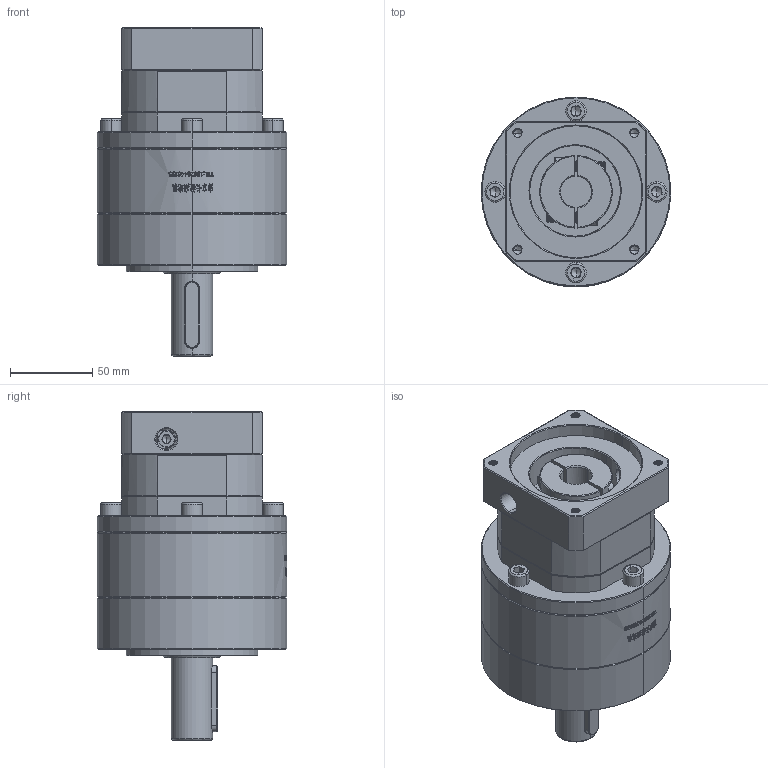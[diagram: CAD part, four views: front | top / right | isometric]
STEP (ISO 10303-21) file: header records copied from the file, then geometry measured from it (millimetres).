
FILE_DESCRIPTION (( 'STEP AP214' ), '1' );
FILE_NAME ('ZE120A-D25-L2-19-80-100-M6.step', '2023-03-13T06:49:30', ( '' ), ( '' ), 'SwSTEP 2.0', 'SolidWorks 2016', '' );
FILE_SCHEMA (( 'AUTOMOTIVE_DESIGN' ));
Length unit declared in the file: millimetre
Products named in the file (1): ZE120A-D25-L2-19-80-100-M6
Bounding box: 115 x 115 x 199 mm (x, y, z)
Volume: 1206339.5 mm3; surface area: 122050.7 mm2
Topology: 5 solids, 6 shells, 2021 faces, 5323 edges, 3393 vertices
Faces by surface type: plane 866, cylinder 500, bspline 333, cone 307, torus 15
Entity records: 116459 total; most frequent: CARTESIAN_POINT 48963, ORIENTED_EDGE 10570, DIRECTION 7904, EDGE_CURVE 5285, VERTEX_POINT 3393, VECTOR 2802, LINE 2802, AXIS2_PLACEMENT_3D 2551
